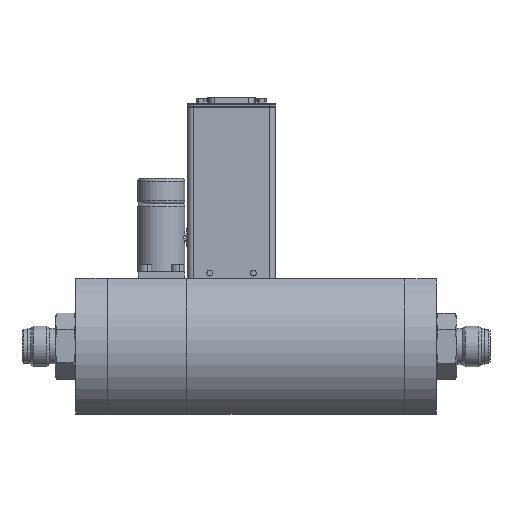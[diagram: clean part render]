
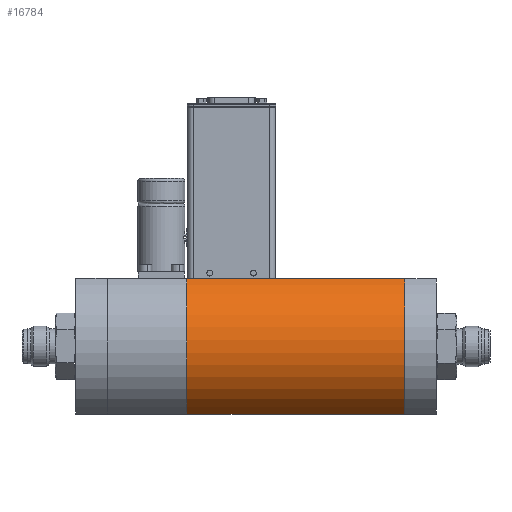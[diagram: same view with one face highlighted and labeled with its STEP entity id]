
A CAD part, left-side view. The second image highlights one B-rep face of the part: STEP entity #16784.
In plain terms, the highlighted cylindrical face has radius 42 mm (diameter 84 mm), a partial arc.
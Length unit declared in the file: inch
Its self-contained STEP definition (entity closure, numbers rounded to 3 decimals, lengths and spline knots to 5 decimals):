
#231 = DIRECTION ( 'NONE',  ( 0., 0., 1. ) ) ;
#929 = DIRECTION ( 'NONE',  ( 0., 0., 1. ) ) ;
#977 = VERTEX_POINT ( 'NONE', #4649 ) ;
#1613 = CARTESIAN_POINT ( 'NONE',  ( -0.76007, 4.72441, 1.4685 ) ) ;
#1942 = CARTESIAN_POINT ( 'NONE',  ( -0.76007, 0., -1.4685 ) ) ;
#2015 = CIRCLE ( 'NONE', #3603, 1.65354 ) ;
#2362 = DIRECTION ( 'NONE',  ( 0., 1., 0. ) ) ;
#2370 = ORIENTED_EDGE ( 'NONE', *, *, #13783, .T. ) ;
#3603 = AXIS2_PLACEMENT_3D ( 'NONE', #22467, #11395, #231 ) ;
#4649 = CARTESIAN_POINT ( 'NONE',  ( -0.76007, 0., 1.4685 ) ) ;
#4967 = EDGE_LOOP ( 'NONE', ( #2370, #15972, #8972, #8583 ) ) ;
#6517 = EDGE_CURVE ( 'NONE', #21396, #23982, #17328, .T. ) ;
#7486 = VERTEX_POINT ( 'NONE', #1613 ) ;
#7513 = CARTESIAN_POINT ( 'NONE',  ( -0.76007, 0., -1.4685 ) ) ;
#8358 = CARTESIAN_POINT ( 'NONE',  ( 0., 0., 0. ) ) ;
#8583 = ORIENTED_EDGE ( 'NONE', *, *, #23126, .F. ) ;
#8824 = CYLINDRICAL_SURFACE ( 'NONE', #8856, 1.65354 ) ;
#8856 = AXIS2_PLACEMENT_3D ( 'NONE', #8358, #12084, #929 ) ;
#8896 = AXIS2_PLACEMENT_3D ( 'NONE', #9402, #22346, #11273 ) ;
#8972 = ORIENTED_EDGE ( 'NONE', *, *, #6517, .T. ) ;
#9388 = DIRECTION ( 'NONE',  ( 0., -1., 0. ) ) ;
#9402 = CARTESIAN_POINT ( 'NONE',  ( 0., 4.72441, 0. ) ) ;
#11273 = DIRECTION ( 'NONE',  ( 0., 0., 1. ) ) ;
#11395 = DIRECTION ( 'NONE',  ( 0., -1., 0. ) ) ;
#12084 = DIRECTION ( 'NONE',  ( 0., 1., 0. ) ) ;
#12384 = VECTOR ( 'NONE', #9388, 39.37008 ) ;
#13538 = CARTESIAN_POINT ( 'NONE',  ( -0.76007, 0., 1.4685 ) ) ;
#13777 = FACE_OUTER_BOUND ( 'NONE', #4967, .T. ) ;
#13783 = EDGE_CURVE ( 'NONE', #977, #7486, #13874, .T. ) ;
#13874 = LINE ( 'NONE', #13538, #18202 ) ;
#15972 = ORIENTED_EDGE ( 'NONE', *, *, #19251, .T. ) ;
#16784 = ADVANCED_FACE ( 'NONE', ( #13777 ), #8824, .T. ) ;
#17328 = LINE ( 'NONE', #7513, #12384 ) ;
#18202 = VECTOR ( 'NONE', #2362, 39.37008 ) ;
#19251 = EDGE_CURVE ( 'NONE', #7486, #21396, #21610, .T. ) ;
#19537 = CARTESIAN_POINT ( 'NONE',  ( -0.76007, 4.72441, -1.4685 ) ) ;
#21396 = VERTEX_POINT ( 'NONE', #19537 ) ;
#21610 = CIRCLE ( 'NONE', #8896, 1.65354 ) ;
#22346 = DIRECTION ( 'NONE',  ( 0., -1., 0. ) ) ;
#22467 = CARTESIAN_POINT ( 'NONE',  ( 0., 0., 0. ) ) ;
#23126 = EDGE_CURVE ( 'NONE', #977, #23982, #2015, .T. ) ;
#23982 = VERTEX_POINT ( 'NONE', #1942 ) ;
